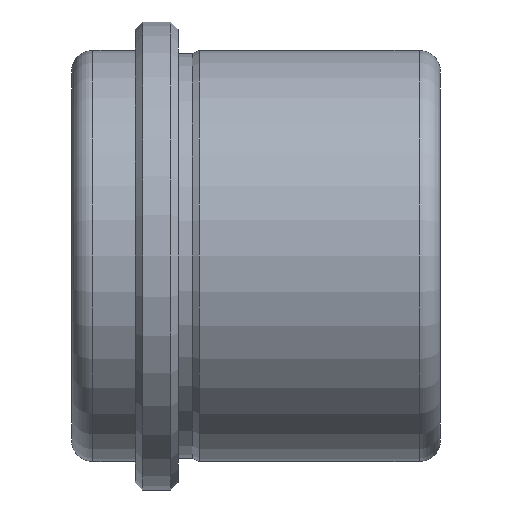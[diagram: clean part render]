
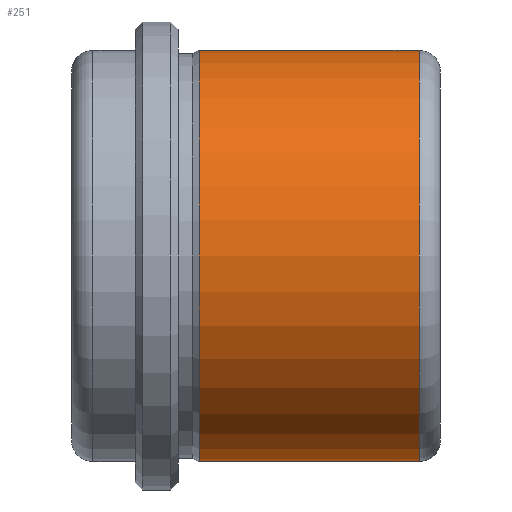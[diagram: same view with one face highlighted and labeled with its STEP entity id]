
A CAD part, front view. The second image highlights one B-rep face of the part: STEP entity #251.
In plain terms, the highlighted cylindrical face has radius 29 mm (diameter 58 mm), a full revolution.
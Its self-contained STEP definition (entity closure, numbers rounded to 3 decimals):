
#27=LINE('',#452,#35);
#35=VECTOR('',#375,29.);
#43=CYLINDRICAL_SURFACE('',#304,29.);
#54=FACE_OUTER_BOUND('',#72,.T.);
#72=EDGE_LOOP('',(#193,#194,#195,#196,#197));
#97=CIRCLE('',#302,29.);
#98=CIRCLE('',#303,29.);
#99=CIRCLE('',#305,29.);
#117=VERTEX_POINT('',#445);
#118=VERTEX_POINT('',#447);
#119=VERTEX_POINT('',#451);
#143=EDGE_CURVE('',#117,#118,#97,.T.);
#144=EDGE_CURVE('',#118,#117,#98,.T.);
#145=EDGE_CURVE('',#118,#119,#27,.T.);
#146=EDGE_CURVE('',#119,#119,#99,.T.);
#193=ORIENTED_EDGE('',*,*,#144,.F.);
#194=ORIENTED_EDGE('',*,*,#145,.T.);
#195=ORIENTED_EDGE('',*,*,#146,.T.);
#196=ORIENTED_EDGE('',*,*,#145,.F.);
#197=ORIENTED_EDGE('',*,*,#143,.F.);
#251=ADVANCED_FACE('',(#54),#43,.T.);
#302=AXIS2_PLACEMENT_3D('',#448,#369,#370);
#303=AXIS2_PLACEMENT_3D('',#449,#371,#372);
#304=AXIS2_PLACEMENT_3D('',#450,#373,#374);
#305=AXIS2_PLACEMENT_3D('',#453,#376,#377);
#369=DIRECTION('center_axis',(1.,0.,0.));
#370=DIRECTION('ref_axis',(0.,-1.,0.));
#371=DIRECTION('center_axis',(1.,0.,0.));
#372=DIRECTION('ref_axis',(0.,-1.,0.));
#373=DIRECTION('center_axis',(1.,0.,0.));
#374=DIRECTION('ref_axis',(0.,1.,0.));
#375=DIRECTION('',(-1.,0.,0.));
#376=DIRECTION('center_axis',(1.,0.,0.));
#377=DIRECTION('ref_axis',(0.,0.,-1.));
#445=CARTESIAN_POINT('',(49.,0.,29.));
#447=CARTESIAN_POINT('',(49.,-29.,0.));
#448=CARTESIAN_POINT('Origin',(49.,0.,0.));
#449=CARTESIAN_POINT('Origin',(49.,0.,0.));
#450=CARTESIAN_POINT('Origin',(35.,0.,0.));
#451=CARTESIAN_POINT('',(18.,-29.,0.));
#452=CARTESIAN_POINT('',(35.,-29.,0.));
#453=CARTESIAN_POINT('Origin',(18.,0.,0.));
